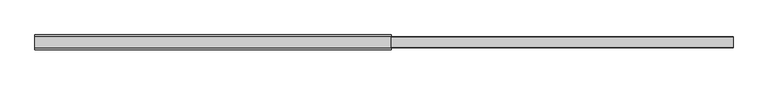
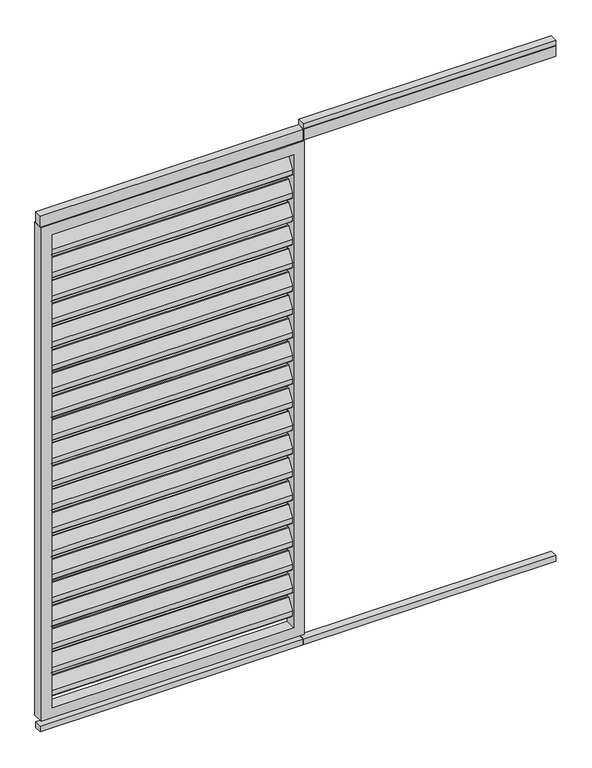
"""IFC4 building model written with IfcOpenShell, lengths in millimetres: proxy geometry, Renson_Algarve_Loggia_Paro_Aluminium : Renson_Algarve_Loggia_Paro_Aluminium."""

from ifc_helpers import new_model, si_unit, point, frame, frame_2d, origin, origin_with_axes, place, context, project, spatial, polyline, circle_curve, trimmed, segment, composite_curve, outline, extrude, source, transform, mapped, element, save


def generic_models_1f1d0628(model_context):
    return source(origin(), model_context, "Body", "SweptSolid", [
        extrude(outline(composite_curve([segment(trimmed(circle_curve(frame_2d((12.6675921, 1892.6587719)), 3.0), [point((10.1515804, 1894.292689))], [point((15.6675921, 1892.6587719))], False, "CARTESIAN"), True, "CONTINUOUS"), segment(polyline([(15.6675921, 1892.6587719), (15.6675921, 1874.2979873)]), True, "CONTINUOUS"), segment(trimmed(circle_curve(frame_2d((12.6675921, 1874.2979873)), 3.0), [point((15.6675921, 1874.2979873))], [point((15.1836038, 1872.6640702))], False, "CARTESIAN"), True, "CONTINUOUS"), segment(polyline([(15.1836038, 1872.6640702), (-8.8163962, 1835.707311)]), True, "CONTINUOUS"), segment(trimmed(circle_curve(frame_2d((-11.3324079, 1837.3412281)), 3.0), [point((-8.8163962, 1835.707311))], [point((-14.3324079, 1837.3412281))], False, "CARTESIAN"), True, "CONTINUOUS"), segment(polyline([(-14.3324079, 1837.3412281), (-14.3324079, 1856.5906532), (10.1515804, 1894.292689)]), True, "CONTINUOUS")], self_intersect=False)), frame((-442.5, 0.0, 0.0), z_axis=(1.0, 0.0, 0.0), x_axis=(0.0, 1.0, 0.0)), (0.0, 0.0, 1.0), 885.0),
        extrude(outline(composite_curve([segment(trimmed(circle_curve(frame_2d((12.6675921, 1802.6587719)), 3.0), [point((10.1515804, 1804.292689))], [point((15.6675921, 1802.6587719))], False, "CARTESIAN"), True, "CONTINUOUS"), segment(polyline([(15.6675921, 1802.6587719), (15.6675921, 1784.2979873)]), True, "CONTINUOUS"), segment(trimmed(circle_curve(frame_2d((12.6675921, 1784.2979873)), 3.0), [point((15.6675921, 1784.2979873))], [point((15.1836038, 1782.6640702))], False, "CARTESIAN"), True, "CONTINUOUS"), segment(polyline([(15.1836038, 1782.6640702), (-8.8163962, 1745.707311)]), True, "CONTINUOUS"), segment(trimmed(circle_curve(frame_2d((-11.3324079, 1747.3412281)), 3.0), [point((-8.8163962, 1745.707311))], [point((-14.3324079, 1747.3412281))], False, "CARTESIAN"), True, "CONTINUOUS"), segment(polyline([(-14.3324079, 1747.3412281), (-14.3324079, 1766.5906532), (10.1515804, 1804.292689)]), True, "CONTINUOUS")], self_intersect=False)), frame((-442.5, 0.0, 0.0), z_axis=(1.0, 0.0, 0.0), x_axis=(0.0, 1.0, 0.0)), (0.0, 0.0, 1.0), 885.0),
        extrude(outline(composite_curve([segment(trimmed(circle_curve(frame_2d((12.6675921, 1712.6587719)), 3.0), [point((10.1515804, 1714.292689))], [point((15.6675921, 1712.6587719))], False, "CARTESIAN"), True, "CONTINUOUS"), segment(polyline([(15.6675921, 1712.6587719), (15.6675921, 1694.2979873)]), True, "CONTINUOUS"), segment(trimmed(circle_curve(frame_2d((12.6675921, 1694.2979873)), 3.0), [point((15.6675921, 1694.2979873))], [point((15.1836038, 1692.6640702))], False, "CARTESIAN"), True, "CONTINUOUS"), segment(polyline([(15.1836038, 1692.6640702), (-8.8163962, 1655.707311)]), True, "CONTINUOUS"), segment(trimmed(circle_curve(frame_2d((-11.3324079, 1657.3412281)), 3.0), [point((-8.8163962, 1655.707311))], [point((-14.3324079, 1657.3412281))], False, "CARTESIAN"), True, "CONTINUOUS"), segment(polyline([(-14.3324079, 1657.3412281), (-14.3324079, 1676.5906532), (10.1515804, 1714.292689)]), True, "CONTINUOUS")], self_intersect=False)), frame((-442.5, 0.0, 0.0), z_axis=(1.0, 0.0, 0.0), x_axis=(0.0, 1.0, 0.0)), (0.0, 0.0, 1.0), 885.0),
        extrude(outline(composite_curve([segment(trimmed(circle_curve(frame_2d((12.6675921, 1622.6587719)), 3.0), [point((10.1515804, 1624.292689))], [point((15.6675921, 1622.6587719))], False, "CARTESIAN"), True, "CONTINUOUS"), segment(polyline([(15.6675921, 1622.6587719), (15.6675921, 1604.2979873)]), True, "CONTINUOUS"), segment(trimmed(circle_curve(frame_2d((12.6675921, 1604.2979873)), 3.0), [point((15.6675921, 1604.2979873))], [point((15.1836038, 1602.6640702))], False, "CARTESIAN"), True, "CONTINUOUS"), segment(polyline([(15.1836038, 1602.6640702), (-8.8163962, 1565.707311)]), True, "CONTINUOUS"), segment(trimmed(circle_curve(frame_2d((-11.3324079, 1567.3412281)), 3.0), [point((-8.8163962, 1565.707311))], [point((-14.3324079, 1567.3412281))], False, "CARTESIAN"), True, "CONTINUOUS"), segment(polyline([(-14.3324079, 1567.3412281), (-14.3324079, 1586.5906532), (10.1515804, 1624.292689)]), True, "CONTINUOUS")], self_intersect=False)), frame((-442.5, 0.0, 0.0), z_axis=(1.0, 0.0, 0.0), x_axis=(0.0, 1.0, 0.0)), (0.0, 0.0, 1.0), 885.0),
        extrude(outline(composite_curve([segment(trimmed(circle_curve(frame_2d((12.6675921, 1532.6587719)), 3.0), [point((10.1515804, 1534.292689))], [point((15.6675921, 1532.6587719))], False, "CARTESIAN"), True, "CONTINUOUS"), segment(polyline([(15.6675921, 1532.6587719), (15.6675921, 1514.2979873)]), True, "CONTINUOUS"), segment(trimmed(circle_curve(frame_2d((12.6675921, 1514.2979873)), 3.0), [point((15.6675921, 1514.2979873))], [point((15.1836038, 1512.6640702))], False, "CARTESIAN"), True, "CONTINUOUS"), segment(polyline([(15.1836038, 1512.6640702), (-8.8163962, 1475.707311)]), True, "CONTINUOUS"), segment(trimmed(circle_curve(frame_2d((-11.3324079, 1477.3412281)), 3.0), [point((-8.8163962, 1475.707311))], [point((-14.3324079, 1477.3412281))], False, "CARTESIAN"), True, "CONTINUOUS"), segment(polyline([(-14.3324079, 1477.3412281), (-14.3324079, 1496.5906532), (10.1515804, 1534.292689)]), True, "CONTINUOUS")], self_intersect=False)), frame((-442.5, 0.0, 0.0), z_axis=(1.0, 0.0, 0.0), x_axis=(0.0, 1.0, 0.0)), (0.0, 0.0, 1.0), 885.0),
        extrude(outline(composite_curve([segment(trimmed(circle_curve(frame_2d((12.6675921, 1442.6587719)), 3.0), [point((10.1515804, 1444.292689))], [point((15.6675921, 1442.6587719))], False, "CARTESIAN"), True, "CONTINUOUS"), segment(polyline([(15.6675921, 1442.6587719), (15.6675921, 1424.2979873)]), True, "CONTINUOUS"), segment(trimmed(circle_curve(frame_2d((12.6675921, 1424.2979873)), 3.0), [point((15.6675921, 1424.2979873))], [point((15.1836038, 1422.6640702))], False, "CARTESIAN"), True, "CONTINUOUS"), segment(polyline([(15.1836038, 1422.6640702), (-8.8163962, 1385.707311)]), True, "CONTINUOUS"), segment(trimmed(circle_curve(frame_2d((-11.3324079, 1387.3412281)), 3.0), [point((-8.8163962, 1385.707311))], [point((-14.3324079, 1387.3412281))], False, "CARTESIAN"), True, "CONTINUOUS"), segment(polyline([(-14.3324079, 1387.3412281), (-14.3324079, 1406.5906532), (10.1515804, 1444.292689)]), True, "CONTINUOUS")], self_intersect=False)), frame((-442.5, 0.0, 0.0), z_axis=(1.0, 0.0, 0.0), x_axis=(0.0, 1.0, 0.0)), (0.0, 0.0, 1.0), 885.0),
        extrude(outline(composite_curve([segment(trimmed(circle_curve(frame_2d((12.6675921, 1352.6587719)), 3.0), [point((10.1515804, 1354.292689))], [point((15.6675921, 1352.6587719))], False, "CARTESIAN"), True, "CONTINUOUS"), segment(polyline([(15.6675921, 1352.6587719), (15.6675921, 1334.2979873)]), True, "CONTINUOUS"), segment(trimmed(circle_curve(frame_2d((12.6675921, 1334.2979873)), 3.0), [point((15.6675921, 1334.2979873))], [point((15.1836038, 1332.6640702))], False, "CARTESIAN"), True, "CONTINUOUS"), segment(polyline([(15.1836038, 1332.6640702), (-8.8163962, 1295.707311)]), True, "CONTINUOUS"), segment(trimmed(circle_curve(frame_2d((-11.3324079, 1297.3412281)), 3.0), [point((-8.8163962, 1295.707311))], [point((-14.3324079, 1297.3412281))], False, "CARTESIAN"), True, "CONTINUOUS"), segment(polyline([(-14.3324079, 1297.3412281), (-14.3324079, 1316.5906532), (10.1515804, 1354.292689)]), True, "CONTINUOUS")], self_intersect=False)), frame((-442.5, 0.0, 0.0), z_axis=(1.0, 0.0, 0.0), x_axis=(0.0, 1.0, 0.0)), (0.0, 0.0, 1.0), 885.0),
        extrude(outline(composite_curve([segment(trimmed(circle_curve(frame_2d((12.6675921, 1262.6587719)), 3.0), [point((10.1515804, 1264.292689))], [point((15.6675921, 1262.6587719))], False, "CARTESIAN"), True, "CONTINUOUS"), segment(polyline([(15.6675921, 1262.6587719), (15.6675921, 1244.2979873)]), True, "CONTINUOUS"), segment(trimmed(circle_curve(frame_2d((12.6675921, 1244.2979873)), 3.0), [point((15.6675921, 1244.2979873))], [point((15.1836038, 1242.6640702))], False, "CARTESIAN"), True, "CONTINUOUS"), segment(polyline([(15.1836038, 1242.6640702), (-8.8163962, 1205.707311)]), True, "CONTINUOUS"), segment(trimmed(circle_curve(frame_2d((-11.3324079, 1207.3412281)), 3.0), [point((-8.8163962, 1205.707311))], [point((-14.3324079, 1207.3412281))], False, "CARTESIAN"), True, "CONTINUOUS"), segment(polyline([(-14.3324079, 1207.3412281), (-14.3324079, 1226.5906532), (10.1515804, 1264.292689)]), True, "CONTINUOUS")], self_intersect=False)), frame((-442.5, 0.0, 0.0), z_axis=(1.0, 0.0, 0.0), x_axis=(0.0, 1.0, 0.0)), (0.0, 0.0, 1.0), 885.0),
        extrude(outline(composite_curve([segment(trimmed(circle_curve(frame_2d((12.6675921, 1172.6587719)), 3.0), [point((10.1515804, 1174.292689))], [point((15.6675921, 1172.6587719))], False, "CARTESIAN"), True, "CONTINUOUS"), segment(polyline([(15.6675921, 1172.6587719), (15.6675921, 1154.2979873)]), True, "CONTINUOUS"), segment(trimmed(circle_curve(frame_2d((12.6675921, 1154.2979873)), 3.0), [point((15.6675921, 1154.2979873))], [point((15.1836038, 1152.6640702))], False, "CARTESIAN"), True, "CONTINUOUS"), segment(polyline([(15.1836038, 1152.6640702), (-8.8163962, 1115.707311)]), True, "CONTINUOUS"), segment(trimmed(circle_curve(frame_2d((-11.3324079, 1117.3412281)), 3.0), [point((-8.8163962, 1115.707311))], [point((-14.3324079, 1117.3412281))], False, "CARTESIAN"), True, "CONTINUOUS"), segment(polyline([(-14.3324079, 1117.3412281), (-14.3324079, 1136.5906532), (10.1515804, 1174.292689)]), True, "CONTINUOUS")], self_intersect=False)), frame((-442.5, 0.0, 0.0), z_axis=(1.0, 0.0, 0.0), x_axis=(0.0, 1.0, 0.0)), (0.0, 0.0, 1.0), 885.0),
        extrude(outline(composite_curve([segment(trimmed(circle_curve(frame_2d((12.6675921, 1082.6587719)), 3.0), [point((10.1515804, 1084.292689))], [point((15.6675921, 1082.6587719))], False, "CARTESIAN"), True, "CONTINUOUS"), segment(polyline([(15.6675921, 1082.6587719), (15.6675921, 1064.2979873)]), True, "CONTINUOUS"), segment(trimmed(circle_curve(frame_2d((12.6675921, 1064.2979873)), 3.0), [point((15.6675921, 1064.2979873))], [point((15.1836038, 1062.6640702))], False, "CARTESIAN"), True, "CONTINUOUS"), segment(polyline([(15.1836038, 1062.6640702), (-8.8163962, 1025.707311)]), True, "CONTINUOUS"), segment(trimmed(circle_curve(frame_2d((-11.3324079, 1027.3412281)), 3.0), [point((-8.8163962, 1025.707311))], [point((-14.3324079, 1027.3412281))], False, "CARTESIAN"), True, "CONTINUOUS"), segment(polyline([(-14.3324079, 1027.3412281), (-14.3324079, 1046.5906532), (10.1515804, 1084.292689)]), True, "CONTINUOUS")], self_intersect=False)), frame((-442.5, 0.0, 0.0), z_axis=(1.0, 0.0, 0.0), x_axis=(0.0, 1.0, 0.0)), (0.0, 0.0, 1.0), 885.0),
        extrude(outline(composite_curve([segment(trimmed(circle_curve(frame_2d((12.6675921, 992.6587719)), 3.0), [point((10.1515804, 994.292689))], [point((15.6675921, 992.6587719))], False, "CARTESIAN"), True, "CONTINUOUS"), segment(polyline([(15.6675921, 992.6587719), (15.6675921, 974.2979873)]), True, "CONTINUOUS"), segment(trimmed(circle_curve(frame_2d((12.6675921, 974.2979873)), 3.0), [point((15.6675921, 974.2979873))], [point((15.1836038, 972.6640702))], False, "CARTESIAN"), True, "CONTINUOUS"), segment(polyline([(15.1836038, 972.6640702), (-8.8163962, 935.707311)]), True, "CONTINUOUS"), segment(trimmed(circle_curve(frame_2d((-11.3324079, 937.3412281)), 3.0), [point((-8.8163962, 935.707311))], [point((-14.3324079, 937.3412281))], False, "CARTESIAN"), True, "CONTINUOUS"), segment(polyline([(-14.3324079, 937.3412281), (-14.3324079, 956.5906532), (10.1515804, 994.292689)]), True, "CONTINUOUS")], self_intersect=False)), frame((-442.5, 0.0, 0.0), z_axis=(1.0, 0.0, 0.0), x_axis=(0.0, 1.0, 0.0)), (0.0, 0.0, 1.0), 885.0),
        extrude(outline(composite_curve([segment(trimmed(circle_curve(frame_2d((12.6675921, 902.6587719)), 3.0), [point((10.1515804, 904.292689))], [point((15.6675921, 902.6587719))], False, "CARTESIAN"), True, "CONTINUOUS"), segment(polyline([(15.6675921, 902.6587719), (15.6675921, 884.2979873)]), True, "CONTINUOUS"), segment(trimmed(circle_curve(frame_2d((12.6675921, 884.2979873)), 3.0), [point((15.6675921, 884.2979873))], [point((15.1836038, 882.6640702))], False, "CARTESIAN"), True, "CONTINUOUS"), segment(polyline([(15.1836038, 882.6640702), (-8.8163962, 845.707311)]), True, "CONTINUOUS"), segment(trimmed(circle_curve(frame_2d((-11.3324079, 847.3412281)), 3.0), [point((-8.8163962, 845.707311))], [point((-14.3324079, 847.3412281))], False, "CARTESIAN"), True, "CONTINUOUS"), segment(polyline([(-14.3324079, 847.3412281), (-14.3324079, 866.5906532), (10.1515804, 904.292689)]), True, "CONTINUOUS")], self_intersect=False)), frame((-442.5, 0.0, 0.0), z_axis=(1.0, 0.0, 0.0), x_axis=(0.0, 1.0, 0.0)), (0.0, 0.0, 1.0), 885.0),
        extrude(outline(composite_curve([segment(trimmed(circle_curve(frame_2d((12.6675921, 812.6587719)), 3.0), [point((10.1515804, 814.292689))], [point((15.6675921, 812.6587719))], False, "CARTESIAN"), True, "CONTINUOUS"), segment(polyline([(15.6675921, 812.6587719), (15.6675921, 794.2979873)]), True, "CONTINUOUS"), segment(trimmed(circle_curve(frame_2d((12.6675921, 794.2979873)), 3.0), [point((15.6675921, 794.2979873))], [point((15.1836038, 792.6640702))], False, "CARTESIAN"), True, "CONTINUOUS"), segment(polyline([(15.1836038, 792.6640702), (-8.8163962, 755.707311)]), True, "CONTINUOUS"), segment(trimmed(circle_curve(frame_2d((-11.3324079, 757.3412281)), 3.0), [point((-8.8163962, 755.707311))], [point((-14.3324079, 757.3412281))], False, "CARTESIAN"), True, "CONTINUOUS"), segment(polyline([(-14.3324079, 757.3412281), (-14.3324079, 776.5906532), (10.1515804, 814.292689)]), True, "CONTINUOUS")], self_intersect=False)), frame((-442.5, 0.0, 0.0), z_axis=(1.0, 0.0, 0.0), x_axis=(0.0, 1.0, 0.0)), (0.0, 0.0, 1.0), 885.0),
        extrude(outline(composite_curve([segment(trimmed(circle_curve(frame_2d((12.6675921, 722.6587719)), 3.0), [point((10.1515804, 724.292689))], [point((15.6675921, 722.6587719))], False, "CARTESIAN"), True, "CONTINUOUS"), segment(polyline([(15.6675921, 722.6587719), (15.6675921, 704.2979873)]), True, "CONTINUOUS"), segment(trimmed(circle_curve(frame_2d((12.6675921, 704.2979873)), 3.0), [point((15.6675921, 704.2979873))], [point((15.1836038, 702.6640702))], False, "CARTESIAN"), True, "CONTINUOUS"), segment(polyline([(15.1836038, 702.6640702), (-8.8163962, 665.707311)]), True, "CONTINUOUS"), segment(trimmed(circle_curve(frame_2d((-11.3324079, 667.3412281)), 3.0), [point((-8.8163962, 665.707311))], [point((-14.3324079, 667.3412281))], False, "CARTESIAN"), True, "CONTINUOUS"), segment(polyline([(-14.3324079, 667.3412281), (-14.3324079, 686.5906532), (10.1515804, 724.292689)]), True, "CONTINUOUS")], self_intersect=False)), frame((-442.5, 0.0, 0.0), z_axis=(1.0, 0.0, 0.0), x_axis=(0.0, 1.0, 0.0)), (0.0, 0.0, 1.0), 885.0),
        extrude(outline(composite_curve([segment(trimmed(circle_curve(frame_2d((12.6675921, 632.6587719)), 3.0), [point((10.1515804, 634.292689))], [point((15.6675921, 632.6587719))], False, "CARTESIAN"), True, "CONTINUOUS"), segment(polyline([(15.6675921, 632.6587719), (15.6675921, 614.2979873)]), True, "CONTINUOUS"), segment(trimmed(circle_curve(frame_2d((12.6675921, 614.2979873)), 3.0), [point((15.6675921, 614.2979873))], [point((15.1836038, 612.6640702))], False, "CARTESIAN"), True, "CONTINUOUS"), segment(polyline([(15.1836038, 612.6640702), (-8.8163962, 575.707311)]), True, "CONTINUOUS"), segment(trimmed(circle_curve(frame_2d((-11.3324079, 577.3412281)), 3.0), [point((-8.8163962, 575.707311))], [point((-14.3324079, 577.3412281))], False, "CARTESIAN"), True, "CONTINUOUS"), segment(polyline([(-14.3324079, 577.3412281), (-14.3324079, 596.5906532), (10.1515804, 634.292689)]), True, "CONTINUOUS")], self_intersect=False)), frame((-442.5, 0.0, 0.0), z_axis=(1.0, 0.0, 0.0), x_axis=(0.0, 1.0, 0.0)), (0.0, 0.0, 1.0), 885.0),
        extrude(outline(composite_curve([segment(trimmed(circle_curve(frame_2d((12.6675921, 542.6587719)), 3.0), [point((10.1515804, 544.292689))], [point((15.6675921, 542.6587719))], False, "CARTESIAN"), True, "CONTINUOUS"), segment(polyline([(15.6675921, 542.6587719), (15.6675921, 524.2979873)]), True, "CONTINUOUS"), segment(trimmed(circle_curve(frame_2d((12.6675921, 524.2979873)), 3.0), [point((15.6675921, 524.2979873))], [point((15.1836038, 522.6640702))], False, "CARTESIAN"), True, "CONTINUOUS"), segment(polyline([(15.1836038, 522.6640702), (-8.8163962, 485.707311)]), True, "CONTINUOUS"), segment(trimmed(circle_curve(frame_2d((-11.3324079, 487.3412281)), 3.0), [point((-8.8163962, 485.707311))], [point((-14.3324079, 487.3412281))], False, "CARTESIAN"), True, "CONTINUOUS"), segment(polyline([(-14.3324079, 487.3412281), (-14.3324079, 506.5906532), (10.1515804, 544.292689)]), True, "CONTINUOUS")], self_intersect=False)), frame((-442.5, 0.0, 0.0), z_axis=(1.0, 0.0, 0.0), x_axis=(0.0, 1.0, 0.0)), (0.0, 0.0, 1.0), 885.0),
        extrude(outline(composite_curve([segment(trimmed(circle_curve(frame_2d((12.6675921, 452.6587719)), 3.0), [point((10.1515804, 454.292689))], [point((15.6675921, 452.6587719))], False, "CARTESIAN"), True, "CONTINUOUS"), segment(polyline([(15.6675921, 452.6587719), (15.6675921, 434.2979873)]), True, "CONTINUOUS"), segment(trimmed(circle_curve(frame_2d((12.6675921, 434.2979873)), 3.0), [point((15.6675921, 434.2979873))], [point((15.1836038, 432.6640702))], False, "CARTESIAN"), True, "CONTINUOUS"), segment(polyline([(15.1836038, 432.6640702), (-8.8163962, 395.707311)]), True, "CONTINUOUS"), segment(trimmed(circle_curve(frame_2d((-11.3324079, 397.3412281)), 3.0), [point((-8.8163962, 395.707311))], [point((-14.3324079, 397.3412281))], False, "CARTESIAN"), True, "CONTINUOUS"), segment(polyline([(-14.3324079, 397.3412281), (-14.3324079, 416.5906532), (10.1515804, 454.292689)]), True, "CONTINUOUS")], self_intersect=False)), frame((-442.5, 0.0, 0.0), z_axis=(1.0, 0.0, 0.0), x_axis=(0.0, 1.0, 0.0)), (0.0, 0.0, 1.0), 885.0),
        extrude(outline(composite_curve([segment(trimmed(circle_curve(frame_2d((12.6675921, 362.6587719)), 3.0), [point((10.1515804, 364.292689))], [point((15.6675921, 362.6587719))], False, "CARTESIAN"), True, "CONTINUOUS"), segment(polyline([(15.6675921, 362.6587719), (15.6675921, 344.2979873)]), True, "CONTINUOUS"), segment(trimmed(circle_curve(frame_2d((12.6675921, 344.2979873)), 3.0), [point((15.6675921, 344.2979873))], [point((15.1836038, 342.6640702))], False, "CARTESIAN"), True, "CONTINUOUS"), segment(polyline([(15.1836038, 342.6640702), (-8.8163962, 305.707311)]), True, "CONTINUOUS"), segment(trimmed(circle_curve(frame_2d((-11.3324079, 307.3412281)), 3.0), [point((-8.8163962, 305.707311))], [point((-14.3324079, 307.3412281))], False, "CARTESIAN"), True, "CONTINUOUS"), segment(polyline([(-14.3324079, 307.3412281), (-14.3324079, 326.5906532), (10.1515804, 364.292689)]), True, "CONTINUOUS")], self_intersect=False)), frame((-442.5, 0.0, 0.0), z_axis=(1.0, 0.0, 0.0), x_axis=(0.0, 1.0, 0.0)), (0.0, 0.0, 1.0), 885.0),
        extrude(outline(composite_curve([segment(trimmed(circle_curve(frame_2d((12.6675921, 272.6587719)), 3.0), [point((10.1515804, 274.292689))], [point((15.6675921, 272.6587719))], False, "CARTESIAN"), True, "CONTINUOUS"), segment(polyline([(15.6675921, 272.6587719), (15.6675921, 254.2979873)]), True, "CONTINUOUS"), segment(trimmed(circle_curve(frame_2d((12.6675921, 254.2979873)), 3.0), [point((15.6675921, 254.2979873))], [point((15.1836038, 252.6640702))], False, "CARTESIAN"), True, "CONTINUOUS"), segment(polyline([(15.1836038, 252.6640702), (-8.8163962, 215.707311)]), True, "CONTINUOUS"), segment(trimmed(circle_curve(frame_2d((-11.3324079, 217.3412281)), 3.0), [point((-8.8163962, 215.707311))], [point((-14.3324079, 217.3412281))], False, "CARTESIAN"), True, "CONTINUOUS"), segment(polyline([(-14.3324079, 217.3412281), (-14.3324079, 236.5906532), (10.1515804, 274.292689)]), True, "CONTINUOUS")], self_intersect=False)), frame((-442.5, 0.0, 0.0), z_axis=(1.0, 0.0, 0.0), x_axis=(0.0, 1.0, 0.0)), (0.0, 0.0, 1.0), 885.0),
        extrude(outline(composite_curve([segment(trimmed(circle_curve(frame_2d((12.6675921, 182.6587719)), 3.0), [point((10.1515804, 184.292689))], [point((15.6675921, 182.6587719))], False, "CARTESIAN"), True, "CONTINUOUS"), segment(polyline([(15.6675921, 182.6587719), (15.6675921, 164.2979873)]), True, "CONTINUOUS"), segment(trimmed(circle_curve(frame_2d((12.6675921, 164.2979873)), 3.0), [point((15.6675921, 164.2979873))], [point((15.1836038, 162.6640702))], False, "CARTESIAN"), True, "CONTINUOUS"), segment(polyline([(15.1836038, 162.6640702), (-8.8163962, 125.707311)]), True, "CONTINUOUS"), segment(trimmed(circle_curve(frame_2d((-11.3324079, 127.3412281)), 3.0), [point((-8.8163962, 125.707311))], [point((-14.3324079, 127.3412281))], False, "CARTESIAN"), True, "CONTINUOUS"), segment(polyline([(-14.3324079, 127.3412281), (-14.3324079, 146.5906532), (10.1515804, 184.292689)]), True, "CONTINUOUS")], self_intersect=False)), frame((-442.5, 0.0, 0.0), z_axis=(1.0, 0.0, 0.0), x_axis=(0.0, 1.0, 0.0)), (0.0, 0.0, 1.0), 885.0),
        extrude(outline(polyline([(1407.5, -13.0), (481.5, -13.0), (481.5, 14.0), (1407.5, 14.0), (1407.5, -13.0)])), frame((0.0, 0.0, 2000.0), z_axis=(0.0, 0.0, 1.0), x_axis=(1.0, 0.0, 0.0)), (0.0, 0.0, 1.0), 20.0),
        extrude(outline(polyline([(482.5, 15.0), (482.5, -15.0), (481.5, -15.0), (481.5, 15.0), (482.5, 15.0)])), frame((0.0, 0.0, 1957.7138321), z_axis=(0.0, 0.0, 1.0), x_axis=(1.0, 0.0, 0.0)), (0.0, 0.0, 1.0), 42.2861679),
        extrude(outline(polyline([(1407.5, 15.0), (1407.5, -15.0), (-482.5, -15.0), (-482.5, 15.0), (1407.5, 15.0)])), frame((0.0, 0.0, 1957.7138321), z_axis=(0.0, 0.0, 1.0), x_axis=(1.0, 0.0, 0.0)), (0.0, 0.0, 1.0), 42.2861679),
        extrude(outline(polyline([(482.5, -13.0), (481.5, -13.0), (481.5, 14.0), (482.5, 14.0), (482.5, -13.0)])), origin_with_axes(), (0.0, 0.0, 1.0), 23.0),
        extrude(outline(polyline([(1407.5, -13.0), (-482.5, -13.0), (-482.5, 14.0), (1407.5, 14.0), (1407.5, -13.0)])), origin_with_axes(), (0.0, 0.0, 1.0), 23.0),
        extrude(outline(polyline([(1957.7138321, -482.5), (45.0, -482.5), (45.0, 482.5), (1957.7138321, 482.5), (1957.7138321, -482.5)]), holes=[polyline([(1917.7138321, 442.5), (85.0, 442.5), (85.0, -442.5), (1917.7138321, -442.5), (1917.7138321, 442.5)])]), frame((0.0, -20.0, 0.0), z_axis=(0.0, 1.0, 0.0), x_axis=(0.0, 0.0, 1.0)), (0.0, 0.0, 1.0), 40.0),
    ])


if __name__ == "__main__":
    model = new_model("IFC4")
    model_context = context("Model", 3, world=origin())
    ifc_project = project(units=[si_unit("LENGTHUNIT", "METRE", prefix="MILLI")], contexts=[model_context])
    site = spatial("IfcSite", under=ifc_project)
    building = spatial("IfcBuilding", under=site)
    placement = place(None, origin())
    generic_models_shape = generic_models_1f1d0628(model_context)
    element("IfcBuildingElementProxy", 1, Name="Renson_Algarve_Loggia_Paro_Aluminium : Renson_Algarve_Loggia_Paro_Aluminium", ObjectType="Renson_Algarve_Loggia_Paro_Aluminium : Renson_Algarve_Loggia_Paro_Aluminium", at=placement, inside=building, context=model_context, shape_type="MappedRepresentation", body=[
        mapped(generic_models_shape, transform((0.0, 0.0, 0.0), x_axis=(1.0, 0.0, 0.0), y_axis=(0.0, 1.0, 0.0), z_axis=(0.0, 0.0, 1.0))),
    ])
    save(model, "model.ifc")
